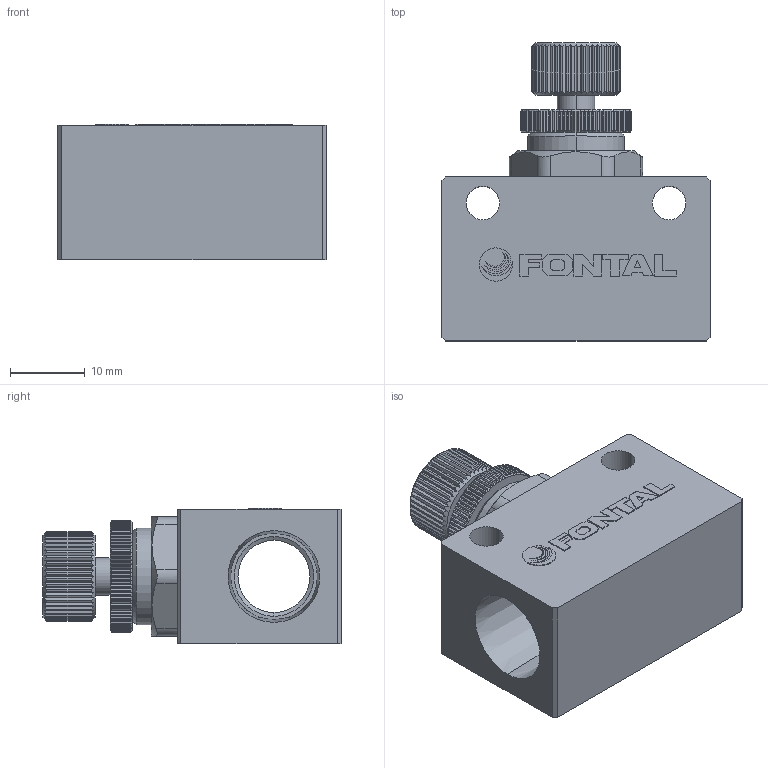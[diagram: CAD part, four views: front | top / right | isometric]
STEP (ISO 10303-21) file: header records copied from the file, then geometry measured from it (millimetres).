
FILE_DESCRIPTION (( 'STEP AP203' ), '1' );
FILE_NAME ('SP-2H-2.STEP', '2016-01-14T19:19:28', ( '' ), ( '' ), 'SwSTEP 2.0', 'SolidWorks 2014', '' );
FILE_SCHEMA (( 'CONFIG_CONTROL_DESIGN' ));
Length unit declared in the file: millimetre
Products named in the file (8): SP-2H-3; SP-2H-4; ZH-2H-MARK; SP-2H-2; SP-2H-6; SP-2H-1-2; SP-2H-5
Assembly tree (7 placements, depth 2):
  SP-2H-2
    SP-2H-2
    SP-2H-3
    SP-2H-4
    SP-2H-5
    SP-2H-6
    ZH-2H-MARK
    SP-2H-1-2
Bounding box: 36 x 40 x 18.12 mm (x, y, z)
Volume: 12363.9 mm3; surface area: 7437.9 mm2
Topology: 13 solids, 13 shells, 722 faces, 1734 edges, 1040 vertices
Faces by surface type: plane 359, cone 184, cylinder 171, bspline 8
Entity records: 22096 total; most frequent: CARTESIAN_POINT 5300, ORIENTED_EDGE 3468, DIRECTION 3146, EDGE_CURVE 1734, AXIS2_PLACEMENT_3D 1246, VERTEX_POINT 1040, EDGE_LOOP 738, ADVANCED_FACE 722
